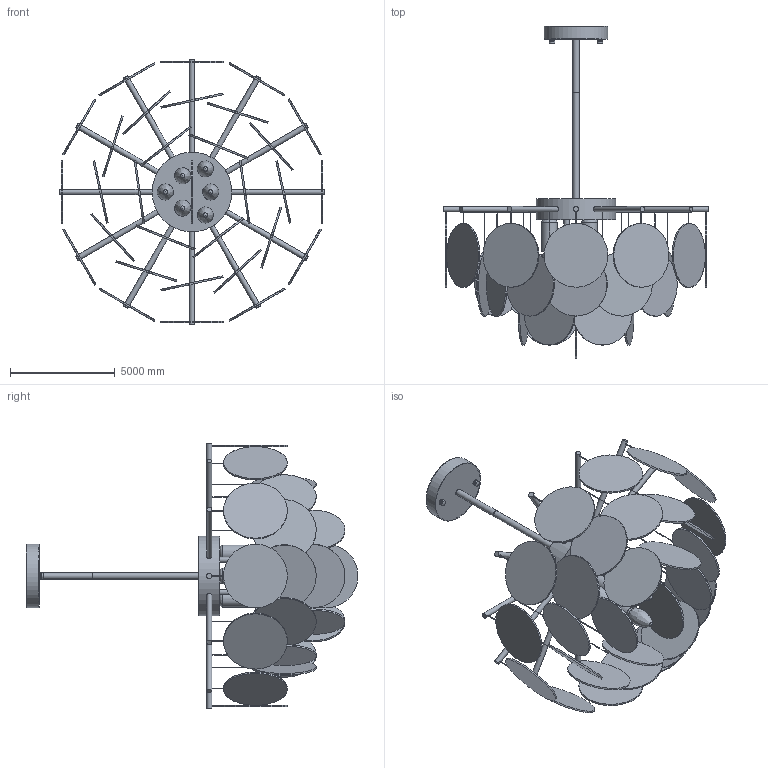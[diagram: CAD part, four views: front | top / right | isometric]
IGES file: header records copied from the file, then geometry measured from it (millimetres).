
Global section: file name: Camisa Glass Chandelier-D19.7″,4; native system: 8HAutoCAD 2022 - 简体中文 (Simplified Chinese); preprocessor: Autodesk Translation Framework DWG producer (atf_dwg_producer); organization: unknown; date: 20260309.085845; units: inch
Bounding box: 12700 x 15874.78 x 12700 mm (x, y, z)
Volume: 36003608372.8 mm3; surface area: 674373353 mm2
Topology: 95 solids, 95 shells, 358 faces, 547 edges, 392 vertices
Faces by surface type: bspline 358
